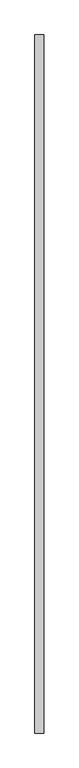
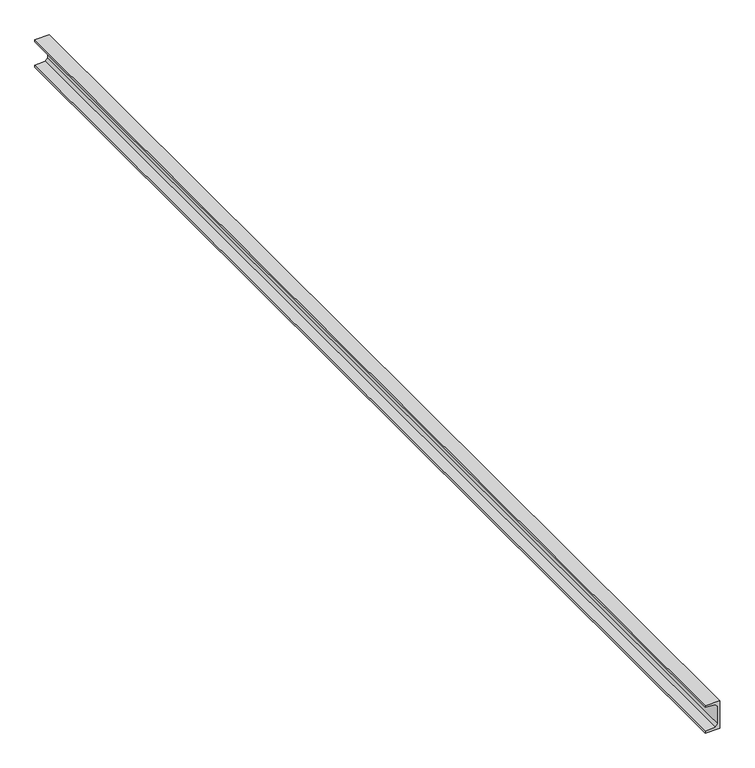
"""IFC4 building model written with IfcOpenShell, lengths in millimetres: beam geometry, Murailli?re 182692 : Murailli?re 182692."""

from ifc_helpers import new_model, si_unit, frame, origin, place, context, project, spatial, polyline, outline, extrude, source, transform, mapped, element, save


def beam_d645ffe5(model_context):
    return source(origin(), model_context, "Body", "SweptSolid", [
        extrude(outline(polyline([(7414.445, 15383.9999999), (7405.265, 15375.4999999), (7402.425, 15339.9999999), (7395.925, 15339.9999999), (7395.925, 15389.9999999), (7495.925, 15389.9999999), (7495.925, 15339.9999999), (7489.425, 15339.9999999), (7486.585, 15375.4999999), (7477.405, 15383.9999999), (7414.445, 15383.9999999)])), frame((0.0, -4210.0, 0.0), z_axis=(0.0, 1.0, 0.0), x_axis=(0.0, 0.0, 1.0)), (0.0, 0.0, 1.0), 3985.0),
    ])


if __name__ == "__main__":
    model = new_model("IFC4")
    model_context = context("Model", 3, world=origin())
    ifc_project = project(units=[si_unit("LENGTHUNIT", "METRE", prefix="MILLI")], contexts=[model_context])
    site = spatial("IfcSite", under=ifc_project)
    building = spatial("IfcBuilding", under=site)
    placement = place(None, origin())
    beam_shape = beam_d645ffe5(model_context)
    element("IfcBeam", 1, ObjectType="Murailli?re 182692 : Murailli?re 182692", at=placement, inside=building, context=model_context, shape_type="MappedRepresentation", body=[
        mapped(beam_shape, transform((0.0, 0.0, 0.0), x_axis=(1.0, 0.0, 0.0), y_axis=(0.0, 1.0, 0.0), z_axis=(0.0, 0.0, 1.0))),
    ])
    save(model, "model.ifc")
